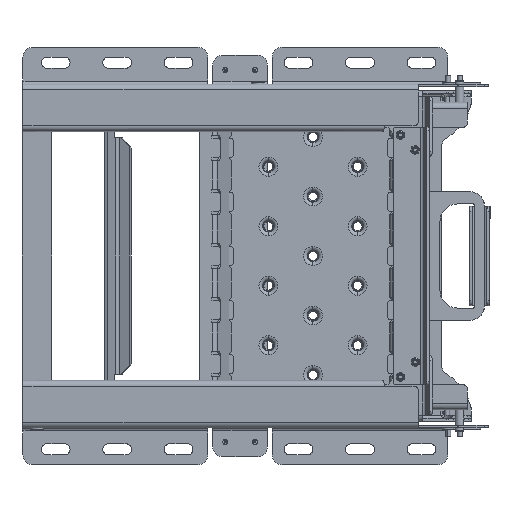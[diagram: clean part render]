
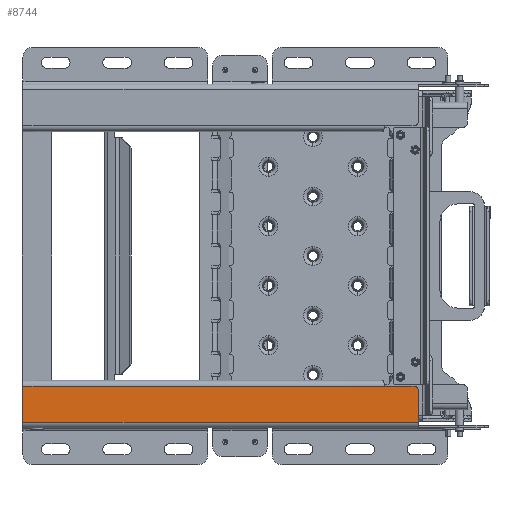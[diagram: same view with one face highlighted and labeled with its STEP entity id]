
A CAD part, front view. The second image highlights one B-rep face of the part: STEP entity #8744.
In plain terms, the highlighted planar face has unit normal (0, -1, 0).
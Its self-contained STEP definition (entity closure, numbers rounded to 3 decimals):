
#790 = DIRECTION ( 'NONE',  ( 0., 1., 0. ) ) ;
#4198 = PLANE ( 'NONE',  #31574 ) ;
#5646 = VERTEX_POINT ( 'NONE', #47667 ) ;
#5893 = CARTESIAN_POINT ( 'NONE',  ( 39., -3., 33. ) ) ;
#7114 = VECTOR ( 'NONE', #9801, 1000. ) ;
#7677 = ORIENTED_EDGE ( 'NONE', *, *, #44300, .T. ) ;
#7885 = CARTESIAN_POINT ( 'NONE',  ( 24., -3., 30. ) ) ;
#8744 = ADVANCED_FACE ( 'NONE', ( #47717 ), #4198, .F. ) ;
#9777 = LINE ( 'NONE', #7885, #22057 ) ;
#9801 = DIRECTION ( 'NONE',  ( 0., 0., 1. ) ) ;
#10817 = CARTESIAN_POINT ( 'NONE',  ( 42., -3., 0. ) ) ;
#11332 = DIRECTION ( 'NONE',  ( -1., 0., 0. ) ) ;
#15276 = EDGE_LOOP ( 'NONE', ( #32649, #38848, #17620, #37595, #7677, #33671 ) ) ;
#15643 = CARTESIAN_POINT ( 'NONE',  ( 6., -3., 428.5 ) ) ;
#16258 = CARTESIAN_POINT ( 'NONE',  ( 0., -3., 0. ) ) ;
#16956 = VECTOR ( 'NONE', #11332, 1000. ) ;
#17620 = ORIENTED_EDGE ( 'NONE', *, *, #18872, .T. ) ;
#17697 = CARTESIAN_POINT ( 'NONE',  ( 42., -3., 428.5 ) ) ;
#17719 = EDGE_CURVE ( 'NONE', #38230, #33221, #9777, .T. ) ;
#18220 = DIRECTION ( 'NONE',  ( -1., 0., 0. ) ) ;
#18872 = EDGE_CURVE ( 'NONE', #5646, #24578, #48791, .T. ) ;
#20275 = EDGE_CURVE ( 'NONE', #24578, #41105, #42536, .T. ) ;
#20460 = DIRECTION ( 'NONE',  ( -1., 0., 0. ) ) ;
#22057 = VECTOR ( 'NONE', #23624, 1000. ) ;
#23624 = DIRECTION ( 'NONE',  ( -1., 0., 0. ) ) ;
#23959 = EDGE_CURVE ( 'NONE', #33221, #45203, #35838, .T. ) ;
#24414 = CARTESIAN_POINT ( 'NONE',  ( 42., -3., 0. ) ) ;
#24578 = VERTEX_POINT ( 'NONE', #42098 ) ;
#28159 = CARTESIAN_POINT ( 'NONE',  ( 39., -3., 30. ) ) ;
#28862 = DIRECTION ( 'NONE',  ( 0., 0., 1. ) ) ;
#29831 = VECTOR ( 'NONE', #43462, 1000. ) ;
#30425 = AXIS2_PLACEMENT_3D ( 'NONE', #5893, #37877, #18220 ) ;
#31574 = AXIS2_PLACEMENT_3D ( 'NONE', #16258, #790, #20460 ) ;
#32649 = ORIENTED_EDGE ( 'NONE', *, *, #17719, .F. ) ;
#32962 = VECTOR ( 'NONE', #28862, 1000. ) ;
#33221 = VERTEX_POINT ( 'NONE', #37245 ) ;
#33671 = ORIENTED_EDGE ( 'NONE', *, *, #23959, .F. ) ;
#35838 = LINE ( 'NONE', #47407, #29831 ) ;
#37245 = CARTESIAN_POINT ( 'NONE',  ( 6., -3., 30. ) ) ;
#37595 = ORIENTED_EDGE ( 'NONE', *, *, #20275, .T. ) ;
#37877 = DIRECTION ( 'NONE',  ( 0., -1., 0. ) ) ;
#38230 = VERTEX_POINT ( 'NONE', #28159 ) ;
#38848 = ORIENTED_EDGE ( 'NONE', *, *, #45400, .T. ) ;
#39098 = CARTESIAN_POINT ( 'NONE',  ( 3., -3., 428.5 ) ) ;
#41105 = VERTEX_POINT ( 'NONE', #17697 ) ;
#42098 = CARTESIAN_POINT ( 'NONE',  ( 42., -3., 63. ) ) ;
#42536 = LINE ( 'NONE', #10817, #7114 ) ;
#43462 = DIRECTION ( 'NONE',  ( 0., 0., 1. ) ) ;
#44300 = EDGE_CURVE ( 'NONE', #41105, #45203, #51170, .T. ) ;
#45203 = VERTEX_POINT ( 'NONE', #15643 ) ;
#45400 = EDGE_CURVE ( 'NONE', #38230, #5646, #48895, .T. ) ;
#47407 = CARTESIAN_POINT ( 'NONE',  ( 6., -3., 0. ) ) ;
#47667 = CARTESIAN_POINT ( 'NONE',  ( 42., -3., 33. ) ) ;
#47717 = FACE_OUTER_BOUND ( 'NONE', #15276, .T. ) ;
#48791 = LINE ( 'NONE', #24414, #32962 ) ;
#48895 = CIRCLE ( 'NONE', #30425, 3. ) ;
#51170 = LINE ( 'NONE', #39098, #16956 ) ;
